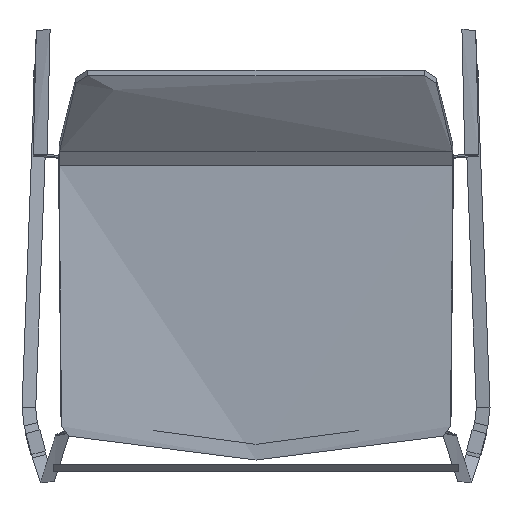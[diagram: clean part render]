
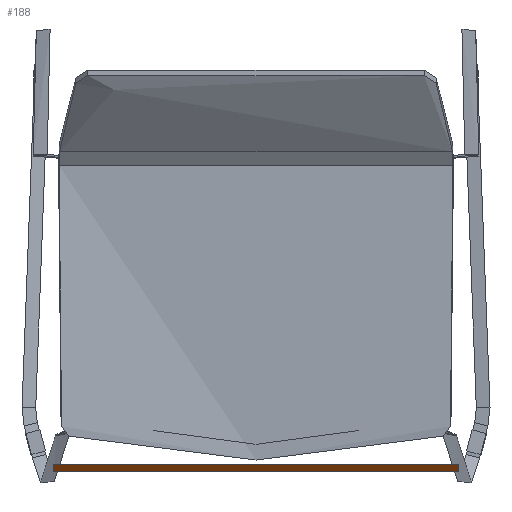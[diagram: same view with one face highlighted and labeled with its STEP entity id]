
A CAD part, top view. The second image highlights one B-rep face of the part: STEP entity #188.
In plain terms, the highlighted free-form (B-spline) face has degree [2, 1] with [5, 2] control points.
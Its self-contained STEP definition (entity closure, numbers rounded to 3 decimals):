
#188=ADVANCED_FACE('',(#327),#1979,.T.);
#327=FACE_OUTER_BOUND('',#466,.T.);
#466=EDGE_LOOP('',(#723,#724,#725,#726,#727,#728));
#723=ORIENTED_EDGE('',*,*,#1247,.T.);
#724=ORIENTED_EDGE('',*,*,#1249,.T.);
#725=ORIENTED_EDGE('',*,*,#1244,.T.);
#726=ORIENTED_EDGE('',*,*,#1246,.F.);
#727=ORIENTED_EDGE('',*,*,#1243,.T.);
#728=ORIENTED_EDGE('',*,*,#1242,.T.);
#1242=EDGE_CURVE('',#1770,#1774,#1558,.T.);
#1243=EDGE_CURVE('',#1771,#1770,#1559,.T.);
#1244=EDGE_CURVE('',#1772,#1773,#1560,.T.);
#1246=EDGE_CURVE('',#1771,#1773,#1562,.T.);
#1247=EDGE_CURVE('',#1774,#1775,#1563,.T.);
#1249=EDGE_CURVE('',#1775,#1772,#1565,.T.);
#1558=(
BOUNDED_CURVE()
B_SPLINE_CURVE(2,(#4300,#4301,#4302),.UNSPECIFIED.,.F.,.F.)
B_SPLINE_CURVE_WITH_KNOTS((3,3),(0.,12.566),.UNSPECIFIED.)
CURVE()
GEOMETRIC_REPRESENTATION_ITEM()
RATIONAL_B_SPLINE_CURVE((1.,0.707,1.))
REPRESENTATION_ITEM('')
);
#1559=(
BOUNDED_CURVE()
B_SPLINE_CURVE(2,(#4303,#4304,#4305),.UNSPECIFIED.,.F.,.F.)
B_SPLINE_CURVE_WITH_KNOTS((3,3),(38.38,50.265),
 .UNSPECIFIED.)
CURVE()
GEOMETRIC_REPRESENTATION_ITEM()
RATIONAL_B_SPLINE_CURVE((1.,0.734,1.))
REPRESENTATION_ITEM('')
);
#1560=(
BOUNDED_CURVE()
B_SPLINE_CURVE(2,(#4306,#4307,#4308),.UNSPECIFIED.,.F.,.F.)
B_SPLINE_CURVE_WITH_KNOTS((3,3),(-50.265,-38.38),
 .UNSPECIFIED.)
CURVE()
GEOMETRIC_REPRESENTATION_ITEM()
RATIONAL_B_SPLINE_CURVE((1.,0.734,1.))
REPRESENTATION_ITEM('')
);
#1562=(
BOUNDED_CURVE()
B_SPLINE_CURVE(1,(#4316,#4317),.UNSPECIFIED.,.F.,.F.)
B_SPLINE_CURVE_WITH_KNOTS((2,2),(0.,462.695),
 .UNSPECIFIED.)
CURVE()
GEOMETRIC_REPRESENTATION_ITEM()
RATIONAL_B_SPLINE_CURVE((1.,1.))
REPRESENTATION_ITEM('')
);
#1563=(
BOUNDED_CURVE()
B_SPLINE_CURVE(1,(#4318,#4319),.UNSPECIFIED.,.F.,.F.)
B_SPLINE_CURVE_WITH_KNOTS((2,2),(0.,462.695),
 .UNSPECIFIED.)
CURVE()
GEOMETRIC_REPRESENTATION_ITEM()
RATIONAL_B_SPLINE_CURVE((1.,1.))
REPRESENTATION_ITEM('')
);
#1565=(
BOUNDED_CURVE()
B_SPLINE_CURVE(2,(#4327,#4328,#4329),.UNSPECIFIED.,.F.,.F.)
B_SPLINE_CURVE_WITH_KNOTS((3,3),(-12.566,0.),.UNSPECIFIED.)
CURVE()
GEOMETRIC_REPRESENTATION_ITEM()
RATIONAL_B_SPLINE_CURVE((1.,0.707,1.))
REPRESENTATION_ITEM('')
);
#1770=VERTEX_POINT('',#4294);
#1771=VERTEX_POINT('',#4295);
#1772=VERTEX_POINT('',#4296);
#1773=VERTEX_POINT('',#4297);
#1774=VERTEX_POINT('',#4298);
#1775=VERTEX_POINT('',#4299);
#1979=(
BOUNDED_SURFACE()
B_SPLINE_SURFACE(2,1,((#4270,#4271),(#4272,#4273),(#4274,#4275),(#4276,
#4277),(#4278,#4279)),.UNSPECIFIED.,.F.,.F.,.F.)
B_SPLINE_SURFACE_WITH_KNOTS((3,2,3),(2,2),(0.,11.886,24.452),
(0.,462.695),.UNSPECIFIED.)
GEOMETRIC_REPRESENTATION_ITEM()
RATIONAL_B_SPLINE_SURFACE(((0.97,0.97),(0.723,
0.723),(1.,1.),(0.707,0.707),(1.,1.)))
REPRESENTATION_ITEM('')
SURFACE()
);
#4270=CARTESIAN_POINT('',(231.348,-214.405,302.024));
#4271=CARTESIAN_POINT('',(-231.348,-214.405,302.024));
#4272=CARTESIAN_POINT('',(231.348,-221.784,302.599));
#4273=CARTESIAN_POINT('',(-231.348,-221.784,302.599));
#4274=CARTESIAN_POINT('',(231.348,-221.784,310.));
#4275=CARTESIAN_POINT('',(-231.348,-221.784,310.));
#4276=CARTESIAN_POINT('',(231.348,-221.784,318.));
#4277=CARTESIAN_POINT('',(-231.348,-221.784,318.));
#4278=CARTESIAN_POINT('',(231.348,-213.784,318.));
#4279=CARTESIAN_POINT('',(-231.348,-213.784,318.));
#4294=CARTESIAN_POINT('',(231.348,-221.784,310.));
#4295=CARTESIAN_POINT('',(231.348,-214.405,302.024));
#4296=CARTESIAN_POINT('',(-231.348,-221.784,310.));
#4297=CARTESIAN_POINT('',(-231.348,-214.405,302.024));
#4298=CARTESIAN_POINT('',(231.348,-213.784,318.));
#4299=CARTESIAN_POINT('',(-231.348,-213.784,318.));
#4300=CARTESIAN_POINT('',(231.348,-221.784,310.));
#4301=CARTESIAN_POINT('',(231.348,-221.784,318.));
#4302=CARTESIAN_POINT('',(231.348,-213.784,318.));
#4303=CARTESIAN_POINT('',(231.348,-214.405,302.024));
#4304=CARTESIAN_POINT('',(231.348,-221.784,302.599));
#4305=CARTESIAN_POINT('',(231.348,-221.784,310.));
#4306=CARTESIAN_POINT('',(-231.348,-221.784,310.));
#4307=CARTESIAN_POINT('',(-231.348,-221.784,302.599));
#4308=CARTESIAN_POINT('',(-231.348,-214.405,302.024));
#4316=CARTESIAN_POINT('',(231.348,-214.405,302.024));
#4317=CARTESIAN_POINT('',(-231.348,-214.405,302.024));
#4318=CARTESIAN_POINT('',(231.348,-213.784,318.));
#4319=CARTESIAN_POINT('',(-231.348,-213.784,318.));
#4327=CARTESIAN_POINT('',(-231.348,-213.784,318.));
#4328=CARTESIAN_POINT('',(-231.348,-221.784,318.));
#4329=CARTESIAN_POINT('',(-231.348,-221.784,310.));
